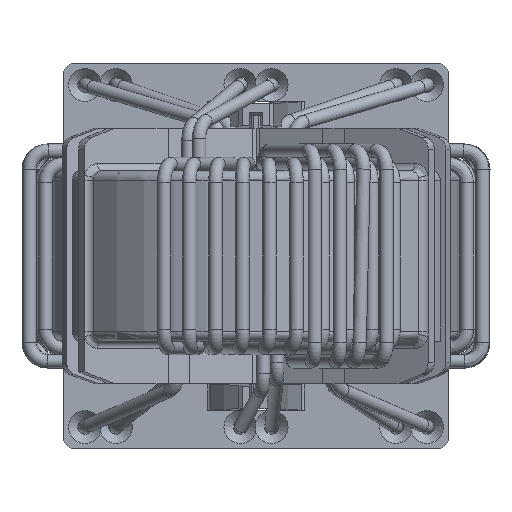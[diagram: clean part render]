
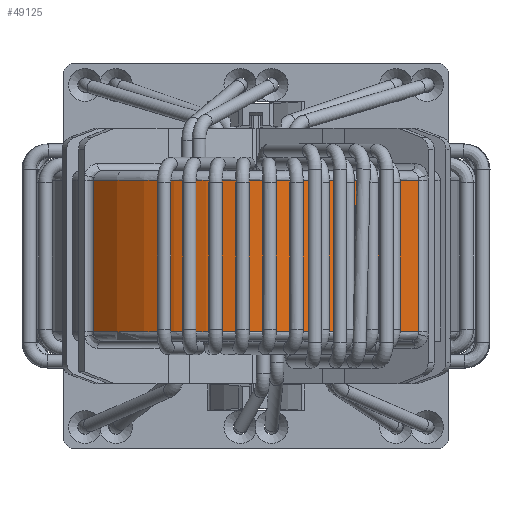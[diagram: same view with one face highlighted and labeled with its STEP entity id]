
A CAD part, left-side view. The second image highlights one B-rep face of the part: STEP entity #49125.
In plain terms, the highlighted cylindrical face has radius 33.7 mm (diameter 67.4 mm), a partial arc.
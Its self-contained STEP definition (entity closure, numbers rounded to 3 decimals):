
#23041=CARTESIAN_POINT('',(-20.821,26.498,26.3));
#23042=VERTEX_POINT('',#23041);
#23050=CARTESIAN_POINT('',(-20.673,-26.614,26.3));
#23051=VERTEX_POINT('',#23050);
#23052=CARTESIAN_POINT('',(0.,0.,26.3));
#23053=DIRECTION('',(0.,0.,1.0));
#23054=DIRECTION('',(-1.,-0.003,0.));
#23055=AXIS2_PLACEMENT_3D('',#23052,#23053,#23054);
#23056=CIRCLE('',#23055,33.7);
#23057=EDGE_CURVE('',#23042,#23051,#23056,.T.);
#48872=CARTESIAN_POINT('',(-20.673,-26.614,1.5));
#48873=VERTEX_POINT('',#48872);
#48952=CARTESIAN_POINT('',(-20.673,-26.614,26.3));
#48953=DIRECTION('',(0.0,0.0,-1.0));
#48954=VECTOR('',#48953,24.8);
#48955=LINE('',#48952,#48954);
#48956=EDGE_CURVE('',#23051,#48873,#48955,.T.);
#49079=CARTESIAN_POINT('',(-20.821,26.498,1.5));
#49080=VERTEX_POINT('',#49079);
#49081=CARTESIAN_POINT('',(0.,0.,1.5));
#49082=DIRECTION('',(0.,0.,-1.0));
#49083=DIRECTION('',(-1.,-0.003,0.));
#49084=AXIS2_PLACEMENT_3D('',#49081,#49082,#49083);
#49085=CIRCLE('',#49084,33.7);
#49086=EDGE_CURVE('',#48873,#49080,#49085,.T.);
#49109=CARTESIAN_POINT('',(0.,0.,13.9));
#49110=DIRECTION('',(0.,0.,1.0));
#49111=DIRECTION('',(-0.498,-0.867,0.));
#49112=AXIS2_PLACEMENT_3D('',#49109,#49110,#49111);
#49113=CYLINDRICAL_SURFACE('',#49112,33.7);
#49114=ORIENTED_EDGE('',*,*,#48956,.F.);
#49115=ORIENTED_EDGE('',*,*,#23057,.F.);
#49116=CARTESIAN_POINT('',(-20.821,26.498,1.5));
#49117=DIRECTION('',(0.0,0.0,1.0));
#49118=VECTOR('',#49117,24.8);
#49119=LINE('',#49116,#49118);
#49120=EDGE_CURVE('',#49080,#23042,#49119,.T.);
#49121=ORIENTED_EDGE('',*,*,#49120,.F.);
#49122=ORIENTED_EDGE('',*,*,#49086,.F.);
#49123=EDGE_LOOP('',(#49114,#49115,#49121,#49122));
#49124=FACE_OUTER_BOUND('',#49123,.T.);
#49125=ADVANCED_FACE('',(#49124),#49113,.T.);
